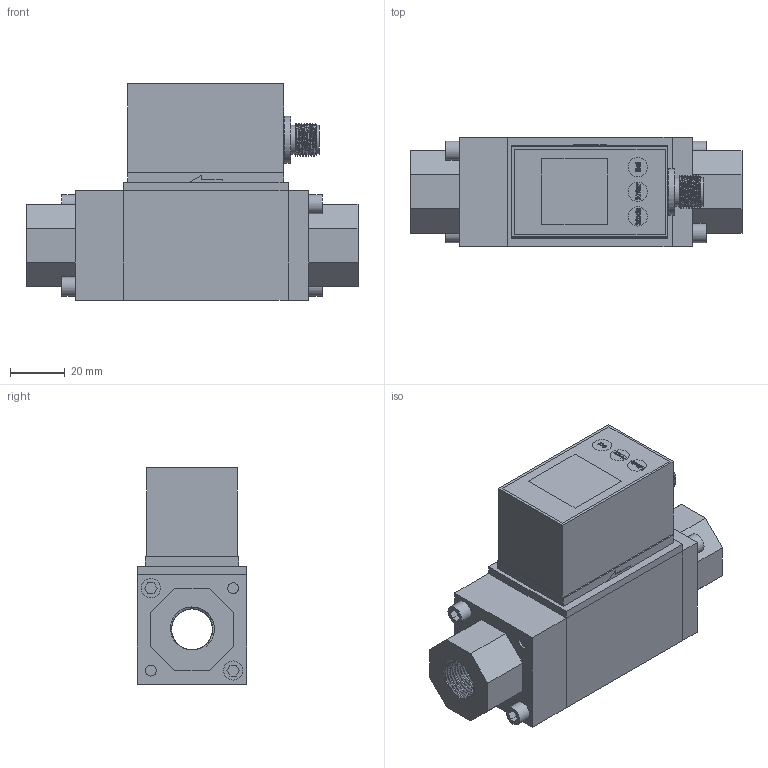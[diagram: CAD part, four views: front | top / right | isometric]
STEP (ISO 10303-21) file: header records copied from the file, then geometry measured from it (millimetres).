
FILE_DESCRIPTION (( 'STEP AP203' ), '1' );
FILE_NAME ('苤講最RC38.STEP', '2024-07-12T01:30:37', ( '' ), ( '' ), 'SwSTEP 2.0', 'SolidWorks 2023', '' );
FILE_SCHEMA (( 'CONFIG_CONTROL_DESIGN' ));
Length unit declared in the file: millimetre
Products named in the file (9): RC38出水口; RC38进水口; 03-M12盘装插座; 04-M12针套（5针）; RC38主体; 08-固定螺栓; 小量程RC38; 01-基座; 02-显示模块
Assembly tree (11 placements, depth 2):
  小量程RC38
    01-基座
    02-显示模块
    03-M12盘装插座
    04-M12针套（5针）
    08-固定螺栓  x4
    RC38出水口
    RC38进水口
    RC38主体
Bounding box: 121 x 40 x 78.91 mm (x, y, z)
Volume: 217105.6 mm3; surface area: 59990.2 mm2
Topology: 11 solids, 11 shells, 399 faces, 1002 edges, 669 vertices
Faces by surface type: plane 232, bspline 90, cylinder 69, torus 8
Full cylindrical faces by diameter (mm): 1 x5, 4 x16, 7 x7, 9 x1, 9.5 x2, 10.5 x2, 12 x2, 14.95 x29, 17 x1
Entity records: 22738 total; most frequent: CARTESIAN_POINT 14376, ORIENTED_EDGE 1594, DIRECTION 1192, EDGE_CURVE 797, VERTEX_POINT 556, LINE 520, VECTOR 520, EDGE_LOOP 445
